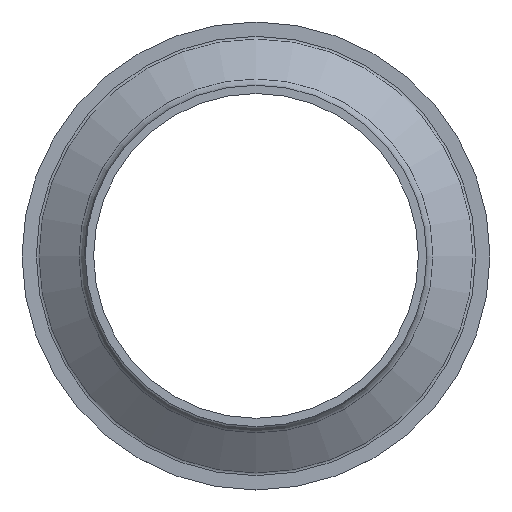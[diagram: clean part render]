
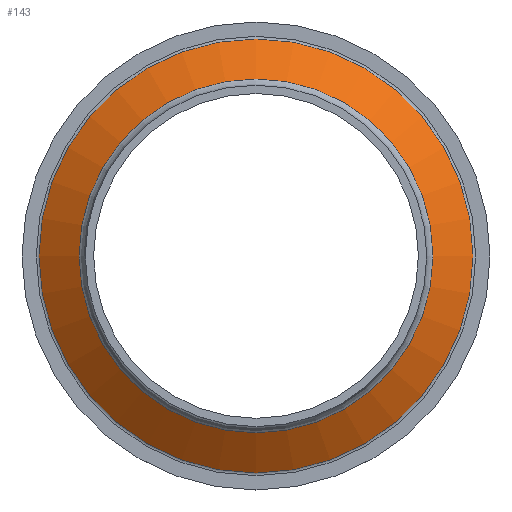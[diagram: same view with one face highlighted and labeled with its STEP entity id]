
A CAD part, top view. The second image highlights one B-rep face of the part: STEP entity #143.
In plain terms, the highlighted conical face has half-angle 55.083 degrees and reference radius 37.033 mm.
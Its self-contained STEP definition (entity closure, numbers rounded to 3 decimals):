
#98=CARTESIAN_POINT('',(45.428,0.,1.18));
#99=VERTEX_POINT('',#98);
#107=CARTESIAN_POINT('',(0.,0.,1.18));
#108=DIRECTION('',(1.,0.,0.));
#109=DIRECTION('',(0.,0.,1.));
#110=AXIS2_PLACEMENT_3D('',#107,#109,#108);
#111=CIRCLE('',#110,45.428);
#112=EDGE_CURVE('',#99,#99,#111,.T.);
#119=CARTESIAN_POINT('',(0.,0.,7.04));
#120=DIRECTION('',(1.,0.,0.));
#121=DIRECTION('',(0.,0.,-1.));
#122=AXIS2_PLACEMENT_3D('',#119,#121,#120);
#123=CONICAL_SURFACE('',#122,37.033,0.961);
#124=CARTESIAN_POINT('',(37.033,0.,7.04));
#125=VERTEX_POINT('',#124);
#126=CARTESIAN_POINT('',(45.428,0.,1.18));
#127=DIRECTION('',(-0.82,0.,0.572));
#128=VECTOR('',#127,10.238);
#129=LINE('',#126,#128);
#130=EDGE_CURVE('',#99,#125,#129,.T.);
#131=ORIENTED_EDGE('E3',*,*,#130,.T.);
#132=CARTESIAN_POINT('',(0.,0.,7.04));
#133=DIRECTION('',(1.,0.,-0.));
#134=DIRECTION('',(0.,-0.,1.));
#135=AXIS2_PLACEMENT_3D('',#132,#134,#133);
#136=CIRCLE('',#135,37.033);
#137=EDGE_CURVE('',#125,#125,#136,.T.);
#138=ORIENTED_EDGE('E12',*,*,#137,.T.);
#139=ORIENTED_EDGE('E12',*,*,#130,.F.);
#140=ORIENTED_EDGE('E12',*,*,#112,.F.);
#141=EDGE_LOOP('',(#131,#138,#139,#140));
#142=FACE_OUTER_BOUND('',#141,.F.);
#143=ADVANCED_FACE('F5',(#142),#123,.T.);
